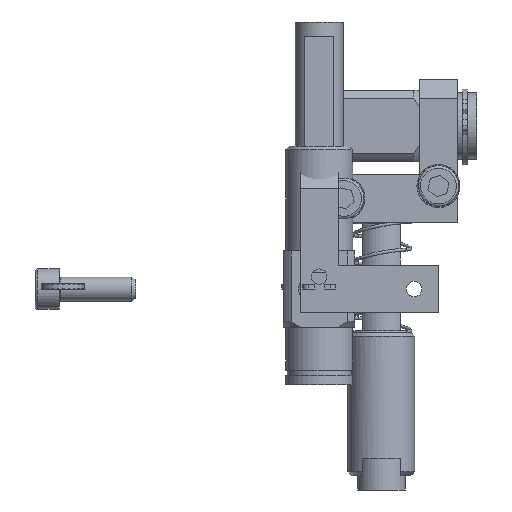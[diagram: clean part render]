
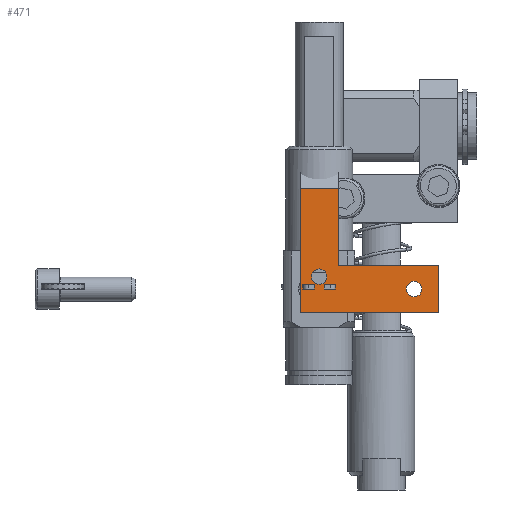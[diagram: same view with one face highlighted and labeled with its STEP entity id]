
A CAD part, front view. The second image highlights one B-rep face of the part: STEP entity #471.
In plain terms, the highlighted planar face has unit normal (0, -1, 0).
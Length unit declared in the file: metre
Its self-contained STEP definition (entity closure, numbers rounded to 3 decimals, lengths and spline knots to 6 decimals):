
#471 = ADVANCED_FACE( '', ( #955, #956, #957 ), #958, .F. );
#955 = FACE_BOUND( '', #1696, .T. );
#956 = FACE_BOUND( '', #1697, .T. );
#957 = FACE_OUTER_BOUND( '', #1698, .T. );
#958 = PLANE( '', #1699 );
#1696 = EDGE_LOOP( '', ( #2619 ) );
#1697 = EDGE_LOOP( '', ( #2620 ) );
#1698 = EDGE_LOOP( '', ( #2621, #2622, #2623, #2624, #2625, #2626 ) );
#1699 = AXIS2_PLACEMENT_3D( '', #2627, #2628, #2629 );
#2619 = ORIENTED_EDGE( '', *, *, #5124, .F. );
#2620 = ORIENTED_EDGE( '', *, *, #5125, .F. );
#2621 = ORIENTED_EDGE( '', *, *, #5092, .T. );
#2622 = ORIENTED_EDGE( '', *, *, #5074, .T. );
#2623 = ORIENTED_EDGE( '', *, *, #5103, .T. );
#2624 = ORIENTED_EDGE( '', *, *, #5121, .T. );
#2625 = ORIENTED_EDGE( '', *, *, #5117, .T. );
#2626 = ORIENTED_EDGE( '', *, *, #5114, .T. );
#2627 = CARTESIAN_POINT( '', ( 0.025, -0.009, 0.025 ) );
#2628 = DIRECTION( '', ( 0., 1., 0. ) );
#2629 = DIRECTION( '', ( 0., 0., 1. ) );
#5074 = EDGE_CURVE( '', #5962, #5966, #5968, .T. );
#5092 = EDGE_CURVE( '', #6000, #5962, #6001, .T. );
#5103 = EDGE_CURVE( '', #5966, #6014, #6016, .T. );
#5114 = EDGE_CURVE( '', #6034, #6000, #6035, .T. );
#5117 = EDGE_CURVE( '', #6039, #6034, #6040, .T. );
#5121 = EDGE_CURVE( '', #6014, #6039, #6045, .T. );
#5124 = EDGE_CURVE( '', #6049, #6049, #6050, .T. );
#5125 = EDGE_CURVE( '', #6051, #6051, #6052, .T. );
#5962 = VERTEX_POINT( '', #7343 );
#5966 = VERTEX_POINT( '', #7349 );
#5968 = LINE( '', #7352, #7353 );
#6000 = VERTEX_POINT( '', #7399 );
#6001 = LINE( '', #7400, #7401 );
#6014 = VERTEX_POINT( '', #7421 );
#6016 = LINE( '', #7424, #7425 );
#6034 = VERTEX_POINT( '', #7449 );
#6035 = LINE( '', #7450, #7451 );
#6039 = VERTEX_POINT( '', #7457 );
#6040 = LINE( '', #7458, #7459 );
#6045 = LINE( '', #7466, #7467 );
#6049 = VERTEX_POINT( '', #7472 );
#6050 = CIRCLE( '', #7473, 0.001621 );
#6051 = VERTEX_POINT( '', #7474 );
#6052 = CIRCLE( '', #7475, 0.001621 );
#7343 = CARTESIAN_POINT( '', ( 0.004, -0.009, 0.021 ) );
#7349 = CARTESIAN_POINT( '', ( -0.004, -0.009, 0.021 ) );
#7352 = CARTESIAN_POINT( '', ( 0.025, -0.009, 0.021 ) );
#7353 = VECTOR( '', #9367, 1. );
#7399 = CARTESIAN_POINT( '', ( 0.004, -0.009, 0.005 ) );
#7400 = CARTESIAN_POINT( '', ( 0.004, -0.009, 0.005 ) );
#7401 = VECTOR( '', #9391, 1. );
#7421 = CARTESIAN_POINT( '', ( -0.004, -0.009, -0.005 ) );
#7424 = CARTESIAN_POINT( '', ( -0.004, -0.009, 0.025 ) );
#7425 = VECTOR( '', #9406, 1. );
#7449 = CARTESIAN_POINT( '', ( 0.025, -0.009, 0.005 ) );
#7450 = CARTESIAN_POINT( '', ( 0.025, -0.009, 0.005 ) );
#7451 = VECTOR( '', #9425, 1. );
#7457 = CARTESIAN_POINT( '', ( 0.025, -0.009, -0.005 ) );
#7458 = CARTESIAN_POINT( '', ( 0.025, -0.009, -0.005 ) );
#7459 = VECTOR( '', #9428, 1. );
#7466 = CARTESIAN_POINT( '', ( -0.004, -0.009, -0.005 ) );
#7467 = VECTOR( '', #9434, 1. );
#7472 = CARTESIAN_POINT( '', ( 0.021521, -0.009, 0. ) );
#7473 = AXIS2_PLACEMENT_3D( '', #9439, #9440, #9441 );
#7474 = CARTESIAN_POINT( '', ( 0.001621, -0.009, 0.0026 ) );
#7475 = AXIS2_PLACEMENT_3D( '', #9442, #9443, #9444 );
#9367 = DIRECTION( '', ( -1., 0., 0. ) );
#9391 = DIRECTION( '', ( 0., 0., 1. ) );
#9406 = DIRECTION( '', ( 0., 0., -1. ) );
#9425 = DIRECTION( '', ( -1., 0., 0. ) );
#9428 = DIRECTION( '', ( 0., 0., 1. ) );
#9434 = DIRECTION( '', ( 1., 0., 0. ) );
#9439 = CARTESIAN_POINT( '', ( 0.0199, -0.009, 0. ) );
#9440 = DIRECTION( '', ( 0., -1., 0. ) );
#9441 = DIRECTION( '', ( 1., 0., 0. ) );
#9442 = CARTESIAN_POINT( '', ( 0., -0.009, 0.0026 ) );
#9443 = DIRECTION( '', ( 0., -1., 0. ) );
#9444 = DIRECTION( '', ( 1., 0., 0. ) );
